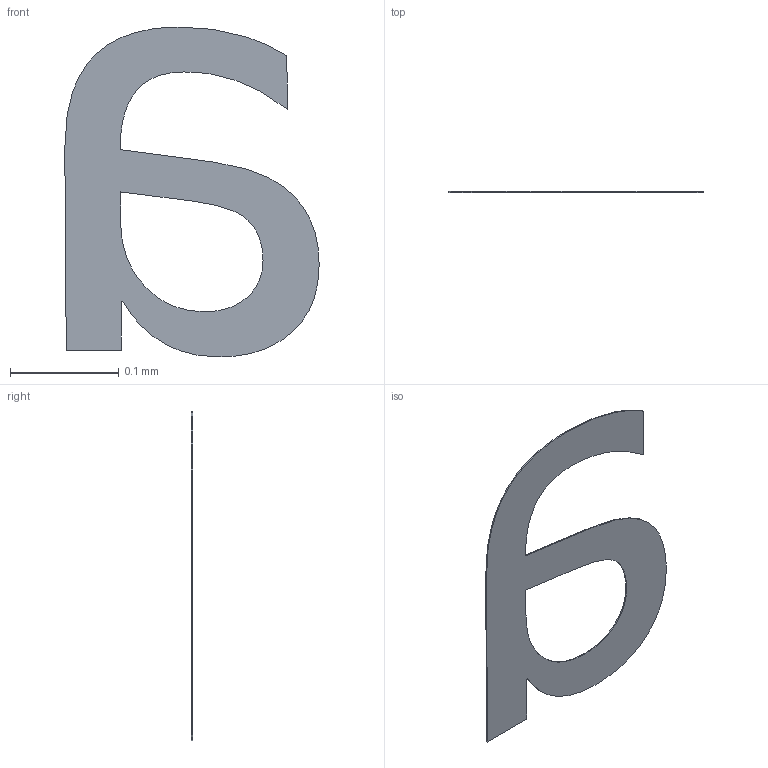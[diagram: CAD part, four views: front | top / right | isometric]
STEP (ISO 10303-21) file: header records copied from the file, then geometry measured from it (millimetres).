
FILE_DESCRIPTION(/* description */ ('STEP AP242 Edition 2','CAx-IF Rec.Pracs.---Representation and Presentation of Product Manufacturing Information (PMI)---4.0---2014-10-13','CAx-IF Rec.Pracs.---3D Tessellated Geometry---0.4---2014-09-14','2;1','CAx-IF Rec.Pracs.---User Defined Attributes---1.5---2016-08-15'),/* implementation_level */ '2;1');
FILE_NAME(/* name */ 'Assembly 1 - SW-TH_EC11E18244A5~SW-TH_EC11E18244A5-L11.7-W12.0-H24.5-P2.5-LS14.5~nxQB (1)',/* time_stamp */ '2026-04-02T09:55:29Z',/* author */ (''),/* organization */ (''),/* preprocessor_version */ 'ST-DEVELOPER v20',/* originating_system */ 'ONSHAPE BY PTC INC, 1.212',/* authorisation */ ' ');
FILE_SCHEMA (('AP242_MANAGED_MODEL_BASED_3D_ENGINEERING_MIM_LF { 1 0 10303 442 3 1 4 }'));
Length unit declared in the file: metre
Products named in the file (1): SW-TH_EC11E18244A5~SW-TH_EC11E18244A5-L11.7-W12.0-H24.5-P2.5-LS14.5~n
xQB
Bounding box: 0.23 x 0 x 0.3 mm (x, y, z)
Volume: 0 mm3; surface area: 0.1 mm2
Topology: 1 solids, 1 shells, 24 faces, 66 edges, 44 vertices
Faces by surface type: bspline 14, plane 10
Entity records: 1029 total; most frequent: CARTESIAN_POINT 317, ORIENTED_EDGE 132, EDGE_CURVE 66, DIRECTION 60, VERTEX_POINT 44, LINE 38, VECTOR 38, B_SPLINE_CURVE_WITH_KNOTS 28
